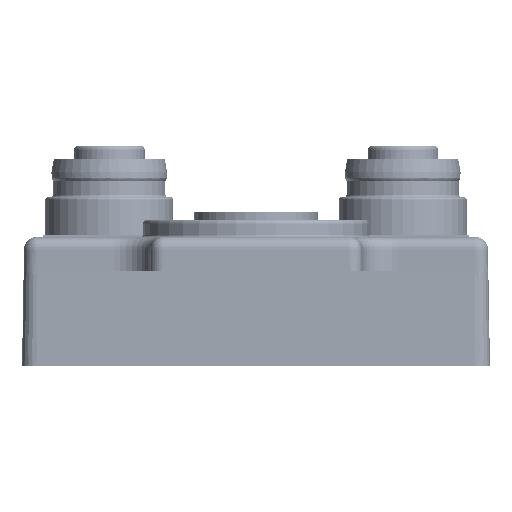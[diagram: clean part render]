
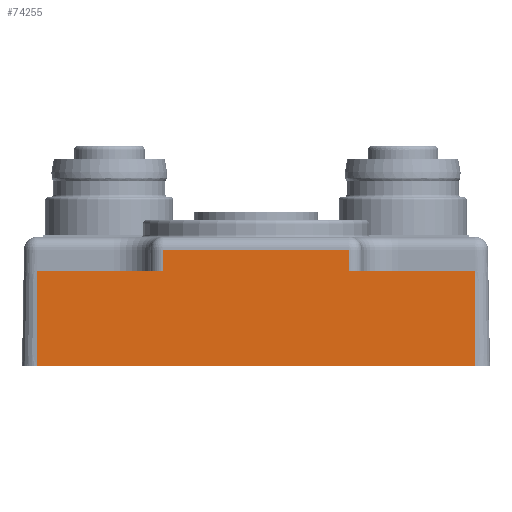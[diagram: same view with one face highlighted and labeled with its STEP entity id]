
A CAD part, left-side view. The second image highlights one B-rep face of the part: STEP entity #74255.
In plain terms, the highlighted planar face has unit normal (-1, 0, 0.018).
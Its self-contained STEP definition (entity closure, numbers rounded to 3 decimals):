
#13445=FACE_OUTER_BOUND('',#18396,.T.);
#18396=EDGE_LOOP('',(#58944,#58945,#58946,#58947,#58948,#58949,#58950,#58951));
#22573=LINE('',#128186,#26343);
#22633=LINE('',#128366,#26403);
#22635=LINE('',#128371,#26405);
#22648=LINE('',#128407,#26418);
#22657=LINE('',#128433,#26427);
#22674=LINE('',#128491,#26444);
#22675=LINE('',#128494,#26445);
#22676=LINE('',#128495,#26446);
#26343=VECTOR('',#102396,10.);
#26403=VECTOR('',#102596,10.);
#26405=VECTOR('',#102602,10.);
#26418=VECTOR('',#102643,10.);
#26427=VECTOR('',#102668,10.);
#26444=VECTOR('',#102741,10.);
#26445=VECTOR('',#102744,10.);
#26446=VECTOR('',#102745,10.);
#32280=VERTEX_POINT('',#128179);
#32282=VERTEX_POINT('',#128184);
#32332=VERTEX_POINT('',#128364);
#32333=VERTEX_POINT('',#128369);
#32342=VERTEX_POINT('',#128406);
#32351=VERTEX_POINT('',#128432);
#32364=VERTEX_POINT('',#128478);
#32365=VERTEX_POINT('',#128493);
#41455=EDGE_CURVE('',#32282,#32280,#22573,.T.);
#41540=EDGE_CURVE('',#32332,#32282,#22633,.T.);
#41543=EDGE_CURVE('',#32280,#32333,#22635,.F.);
#41560=EDGE_CURVE('',#32333,#32342,#22648,.T.);
#41573=EDGE_CURVE('',#32351,#32332,#22657,.T.);
#41602=EDGE_CURVE('',#32364,#32351,#22674,.T.);
#41603=EDGE_CURVE('',#32342,#32365,#22675,.T.);
#41604=EDGE_CURVE('',#32365,#32364,#22676,.T.);
#58944=ORIENTED_EDGE('',*,*,#41603,.F.);
#58945=ORIENTED_EDGE('',*,*,#41560,.F.);
#58946=ORIENTED_EDGE('',*,*,#41543,.F.);
#58947=ORIENTED_EDGE('',*,*,#41455,.F.);
#58948=ORIENTED_EDGE('',*,*,#41540,.F.);
#58949=ORIENTED_EDGE('',*,*,#41573,.F.);
#58950=ORIENTED_EDGE('',*,*,#41602,.F.);
#58951=ORIENTED_EDGE('',*,*,#41604,.F.);
#66872=PLANE('',#82801);
#74255=ADVANCED_FACE('',(#13445),#66872,.F.);
#82801=AXIS2_PLACEMENT_3D('',#128492,#102742,#102743);
#102396=DIRECTION('',(0.,1.,0.));
#102596=DIRECTION('',(-0.017,0.,-1.));
#102602=DIRECTION('',(-0.017,0.,-1.));
#102643=DIRECTION('',(0.,-1.,0.));
#102668=DIRECTION('',(0.,-1.,0.));
#102741=DIRECTION('',(-0.017,0.,-1.));
#102742=DIRECTION('center_axis',(1.,0.,-0.017));
#102743=DIRECTION('ref_axis',(-0.017,0.,-1.));
#102744=DIRECTION('',(0.017,0.,1.));
#102745=DIRECTION('',(0.,-1.,0.));
#128179=CARTESIAN_POINT('',(-61.336,75.382,0.));
#128184=CARTESIAN_POINT('',(-61.336,24.618,0.));
#128186=CARTESIAN_POINT('',(-61.336,50.,0.));
#128364=CARTESIAN_POINT('',(-61.144,24.618,11.));
#128366=CARTESIAN_POINT('',(-61.1,24.618,13.526));
#128369=CARTESIAN_POINT('',(-61.144,75.382,11.));
#128371=CARTESIAN_POINT('',(-61.1,75.382,13.526));
#128406=CARTESIAN_POINT('',(-61.144,60.75,11.));
#128407=CARTESIAN_POINT('',(-61.144,61.246,11.));
#128432=CARTESIAN_POINT('',(-61.144,39.25,11.));
#128433=CARTESIAN_POINT('',(-61.144,39.435,11.));
#128478=CARTESIAN_POINT('',(-61.1,39.25,13.526));
#128491=CARTESIAN_POINT('',(-61.086,39.25,14.299));
#128492=CARTESIAN_POINT('Origin',(-61.1,50.,13.526));
#128493=CARTESIAN_POINT('',(-61.1,60.75,13.526));
#128494=CARTESIAN_POINT('',(-61.089,60.75,14.166));
#128495=CARTESIAN_POINT('',(-61.1,50.,13.526));
